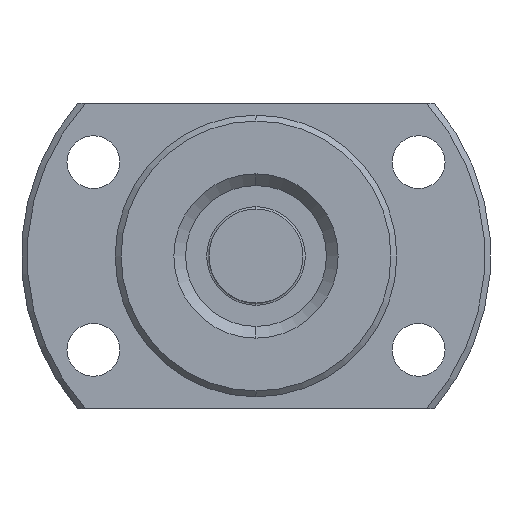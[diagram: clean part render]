
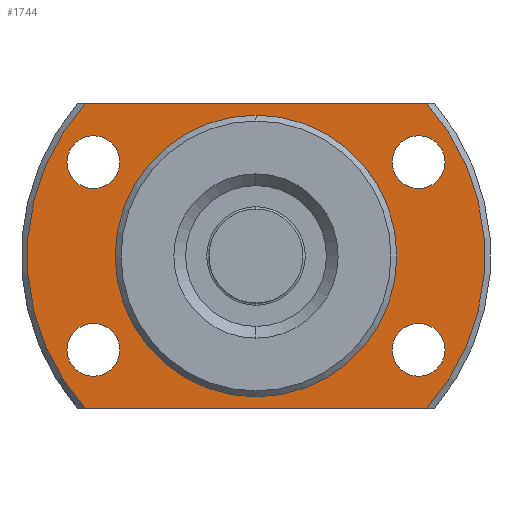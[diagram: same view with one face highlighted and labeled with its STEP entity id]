
A CAD part, left-side view. The second image highlights one B-rep face of the part: STEP entity #1744.
In plain terms, the highlighted planar face has unit normal (-1, 0, 0) as drawn and (1, 0, 0) by its records, which use the part's own axes.
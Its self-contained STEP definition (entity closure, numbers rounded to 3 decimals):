
#14 = DIRECTION ( 'NONE',  ( 1., 0., 0. ) ) ;
#20 = CARTESIAN_POINT ( 'NONE',  ( 8., -13.856, 10.25 ) ) ;
#62 = FACE_OUTER_BOUND ( 'NONE', #582, .T. ) ;
#70 = ORIENTED_EDGE ( 'NONE', *, *, #1282, .T. ) ;
#92 = CARTESIAN_POINT ( 'NONE',  ( 8., 13.856, -8. ) ) ;
#95 = LINE ( 'NONE', #1956, #1058 ) ;
#110 = DIRECTION ( 'NONE',  ( 0., 0., -1. ) ) ;
#136 = EDGE_LOOP ( 'NONE', ( #1211, #574 ) ) ;
#138 = DIRECTION ( 'NONE',  ( 0., 0., -1. ) ) ;
#187 = DIRECTION ( 'NONE',  ( -1., 0., 0. ) ) ;
#193 = CIRCLE ( 'NONE', #690, 2.25 ) ;
#207 = VERTEX_POINT ( 'NONE', #1982 ) ;
#224 = DIRECTION ( 'NONE',  ( 0., 0., -1. ) ) ;
#225 = EDGE_CURVE ( 'NONE', #1011, #207, #636, .T. ) ;
#245 = CARTESIAN_POINT ( 'NONE',  ( 8., 11.908, 9.125 ) ) ;
#260 = EDGE_CURVE ( 'NONE', #722, #910, #732, .T. ) ;
#294 = CARTESIAN_POINT ( 'NONE',  ( 8., 13.856, -5.75 ) ) ;
#309 = EDGE_CURVE ( 'NONE', #337, #1507, #1866, .T. ) ;
#330 = DIRECTION ( 'NONE',  ( 0., 0., -1. ) ) ;
#337 = VERTEX_POINT ( 'NONE', #20 ) ;
#347 = VERTEX_POINT ( 'NONE', #829 ) ;
#400 = CARTESIAN_POINT ( 'NONE',  ( 8., -13.856, -8. ) ) ;
#424 = VERTEX_POINT ( 'NONE', #956 ) ;
#431 = EDGE_CURVE ( 'NONE', #1812, #1856, #616, .T. ) ;
#442 = CIRCLE ( 'NONE', #1362, 19.5 ) ;
#455 = CARTESIAN_POINT ( 'NONE',  ( 8., -14.534, -13. ) ) ;
#481 = CARTESIAN_POINT ( 'NONE',  ( 8., -13.856, 8. ) ) ;
#511 = EDGE_CURVE ( 'NONE', #207, #1011, #780, .T. ) ;
#519 = FACE_BOUND ( 'NONE', #632, .T. ) ;
#539 = EDGE_CURVE ( 'NONE', #1856, #1812, #1691, .T. ) ;
#547 = DIRECTION ( 'NONE',  ( 1., 0., 0. ) ) ;
#556 = ORIENTED_EDGE ( 'NONE', *, *, #558, .T. ) ;
#558 = EDGE_CURVE ( 'NONE', #1667, #590, #193, .T. ) ;
#573 = CARTESIAN_POINT ( 'NONE',  ( 8., -15.805, -6.875 ) ) ;
#574 = ORIENTED_EDGE ( 'NONE', *, *, #431, .T. ) ;
#582 = EDGE_LOOP ( 'NONE', ( #787, #70, #917, #1604 ) ) ;
#590 = VERTEX_POINT ( 'NONE', #1946 ) ;
#616 = CIRCLE ( 'NONE', #1763, 2.25 ) ;
#623 = ORIENTED_EDGE ( 'NONE', *, *, #309, .T. ) ;
#632 = EDGE_LOOP ( 'NONE', ( #728, #556 ) ) ;
#636 = CIRCLE ( 'NONE', #1325, 2.25 ) ;
#676 = FACE_BOUND ( 'NONE', #1079, .T. ) ;
#690 = AXIS2_PLACEMENT_3D ( 'NONE', #400, #1934, #1170 ) ;
#704 = ORIENTED_EDGE ( 'NONE', *, *, #1165, .T. ) ;
#722 = VERTEX_POINT ( 'NONE', #455 ) ;
#727 = CARTESIAN_POINT ( 'NONE',  ( 8., 0., 0. ) ) ;
#728 = ORIENTED_EDGE ( 'NONE', *, *, #1876, .T. ) ;
#732 = LINE ( 'NONE', #1374, #1516 ) ;
#763 = CIRCLE ( 'NONE', #934, 12. ) ;
#778 = AXIS2_PLACEMENT_3D ( 'NONE', #1245, #14, #1847 ) ;
#779 = CARTESIAN_POINT ( 'NONE',  ( 8., -13.856, -8. ) ) ;
#780 = CIRCLE ( 'NONE', #1980, 2.25 ) ;
#787 = ORIENTED_EDGE ( 'NONE', *, *, #1652, .T. ) ;
#793 = CARTESIAN_POINT ( 'NONE',  ( 8., 13.856, -10.25 ) ) ;
#813 = DIRECTION ( 'NONE',  ( 0., 0., -1. ) ) ;
#821 = DIRECTION ( 'NONE',  ( -1., 0., 0. ) ) ;
#829 = CARTESIAN_POINT ( 'NONE',  ( 8., 0., -12. ) ) ;
#846 = DIRECTION ( 'NONE',  ( 0., -1., 0. ) ) ;
#910 = VERTEX_POINT ( 'NONE', #1307 ) ;
#916 = DIRECTION ( 'NONE',  ( 0., 0., -1. ) ) ;
#917 = ORIENTED_EDGE ( 'NONE', *, *, #1024, .T. ) ;
#920 = CARTESIAN_POINT ( 'NONE',  ( 8., 13.856, 8. ) ) ;
#934 = AXIS2_PLACEMENT_3D ( 'NONE', #1919, #1151, #1773 ) ;
#956 = CARTESIAN_POINT ( 'NONE',  ( 8., 14.534, 13. ) ) ;
#958 = EDGE_LOOP ( 'NONE', ( #704, #623 ) ) ;
#963 = CARTESIAN_POINT ( 'NONE',  ( 8., 13.856, -8. ) ) ;
#965 = EDGE_CURVE ( 'NONE', #347, #1240, #1584, .T. ) ;
#999 = AXIS2_PLACEMENT_3D ( 'NONE', #481, #821, #330 ) ;
#1001 = CARTESIAN_POINT ( 'NONE',  ( 8., 0., 12. ) ) ;
#1011 = VERTEX_POINT ( 'NONE', #245 ) ;
#1024 = EDGE_CURVE ( 'NONE', #1751, #722, #442, .T. ) ;
#1058 = VECTOR ( 'NONE', #846, 1000. ) ;
#1078 = FACE_BOUND ( 'NONE', #1848, .T. ) ;
#1079 = EDGE_LOOP ( 'NONE', ( #1615, #1164 ) ) ;
#1096 = DIRECTION ( 'NONE',  ( -1., 0., 0. ) ) ;
#1103 = CARTESIAN_POINT ( 'NONE',  ( 8., -13.856, 8. ) ) ;
#1133 = CIRCLE ( 'NONE', #1712, 2.25 ) ;
#1151 = DIRECTION ( 'NONE',  ( 1., 0., 0. ) ) ;
#1164 = ORIENTED_EDGE ( 'NONE', *, *, #1312, .F. ) ;
#1165 = EDGE_CURVE ( 'NONE', #1507, #337, #1133, .T. ) ;
#1170 = DIRECTION ( 'NONE',  ( 0., 0., -1. ) ) ;
#1186 = DIRECTION ( 'NONE',  ( 0., 0., -1. ) ) ;
#1211 = ORIENTED_EDGE ( 'NONE', *, *, #539, .T. ) ;
#1240 = VERTEX_POINT ( 'NONE', #1001 ) ;
#1245 = CARTESIAN_POINT ( 'NONE',  ( 8., 12., 0. ) ) ;
#1282 = EDGE_CURVE ( 'NONE', #424, #1751, #95, .T. ) ;
#1302 = FACE_BOUND ( 'NONE', #136, .T. ) ;
#1307 = CARTESIAN_POINT ( 'NONE',  ( 8., 14.534, -13. ) ) ;
#1312 = EDGE_CURVE ( 'NONE', #1240, #347, #763, .T. ) ;
#1325 = AXIS2_PLACEMENT_3D ( 'NONE', #920, #1096, #138 ) ;
#1359 = DIRECTION ( 'NONE',  ( 1., 0., 0. ) ) ;
#1362 = AXIS2_PLACEMENT_3D ( 'NONE', #1911, #1766, #1607 ) ;
#1369 = DIRECTION ( 'NONE',  ( 0., 0., -1. ) ) ;
#1374 = CARTESIAN_POINT ( 'NONE',  ( 8., 12., -13. ) ) ;
#1413 = PLANE ( 'NONE',  #778 ) ;
#1436 = DIRECTION ( 'NONE',  ( 0., 0., -1. ) ) ;
#1474 = CIRCLE ( 'NONE', #1688, 19.5 ) ;
#1487 = CARTESIAN_POINT ( 'NONE',  ( 8., 13.856, 8. ) ) ;
#1498 = DIRECTION ( 'NONE',  ( -1., 0., 0. ) ) ;
#1507 = VERTEX_POINT ( 'NONE', #1722 ) ;
#1516 = VECTOR ( 'NONE', #2001, 1000. ) ;
#1555 = CARTESIAN_POINT ( 'NONE',  ( 8., -14.534, 13. ) ) ;
#1581 = DIRECTION ( 'NONE',  ( -1., 0., 0. ) ) ;
#1584 = CIRCLE ( 'NONE', #1873, 12. ) ;
#1604 = ORIENTED_EDGE ( 'NONE', *, *, #260, .T. ) ;
#1607 = DIRECTION ( 'NONE',  ( 0., 0., -1. ) ) ;
#1615 = ORIENTED_EDGE ( 'NONE', *, *, #965, .F. ) ;
#1623 = DIRECTION ( 'NONE',  ( -1., 0., 0. ) ) ;
#1652 = EDGE_CURVE ( 'NONE', #910, #424, #1474, .T. ) ;
#1667 = VERTEX_POINT ( 'NONE', #573 ) ;
#1688 = AXIS2_PLACEMENT_3D ( 'NONE', #727, #1359, #1369 ) ;
#1691 = CIRCLE ( 'NONE', #1951, 2.25 ) ;
#1707 = DIRECTION ( 'NONE',  ( -1., 0., 0. ) ) ;
#1712 = AXIS2_PLACEMENT_3D ( 'NONE', #1103, #187, #813 ) ;
#1722 = CARTESIAN_POINT ( 'NONE',  ( 8., -13.856, 5.75 ) ) ;
#1744 = ADVANCED_FACE ( 'NONE', ( #62, #676, #1302, #1916, #519, #1078 ), #1413, .T. ) ;
#1751 = VERTEX_POINT ( 'NONE', #1555 ) ;
#1763 = AXIS2_PLACEMENT_3D ( 'NONE', #963, #1581, #1436 ) ;
#1766 = DIRECTION ( 'NONE',  ( 1., 0., 0. ) ) ;
#1773 = DIRECTION ( 'NONE',  ( 0., 0., -1. ) ) ;
#1778 = AXIS2_PLACEMENT_3D ( 'NONE', #779, #1707, #916 ) ;
#1785 = ORIENTED_EDGE ( 'NONE', *, *, #511, .T. ) ;
#1812 = VERTEX_POINT ( 'NONE', #793 ) ;
#1847 = DIRECTION ( 'NONE',  ( 0., 1., 0. ) ) ;
#1848 = EDGE_LOOP ( 'NONE', ( #1984, #1785 ) ) ;
#1856 = VERTEX_POINT ( 'NONE', #294 ) ;
#1866 = CIRCLE ( 'NONE', #999, 2.25 ) ;
#1873 = AXIS2_PLACEMENT_3D ( 'NONE', #1932, #547, #224 ) ;
#1876 = EDGE_CURVE ( 'NONE', #590, #1667, #1961, .T. ) ;
#1911 = CARTESIAN_POINT ( 'NONE',  ( 8., 0., 0. ) ) ;
#1916 = FACE_BOUND ( 'NONE', #958, .T. ) ;
#1919 = CARTESIAN_POINT ( 'NONE',  ( 8., 0., 0. ) ) ;
#1932 = CARTESIAN_POINT ( 'NONE',  ( 8., 0., 0. ) ) ;
#1934 = DIRECTION ( 'NONE',  ( -1., 0., 0. ) ) ;
#1946 = CARTESIAN_POINT ( 'NONE',  ( 8., -11.908, -9.125 ) ) ;
#1951 = AXIS2_PLACEMENT_3D ( 'NONE', #92, #1498, #110 ) ;
#1956 = CARTESIAN_POINT ( 'NONE',  ( 8., 12., 13. ) ) ;
#1961 = CIRCLE ( 'NONE', #1778, 2.25 ) ;
#1980 = AXIS2_PLACEMENT_3D ( 'NONE', #1487, #1623, #1186 ) ;
#1982 = CARTESIAN_POINT ( 'NONE',  ( 8., 15.805, 6.875 ) ) ;
#1984 = ORIENTED_EDGE ( 'NONE', *, *, #225, .T. ) ;
#2001 = DIRECTION ( 'NONE',  ( 0., 1., 0. ) ) ;
